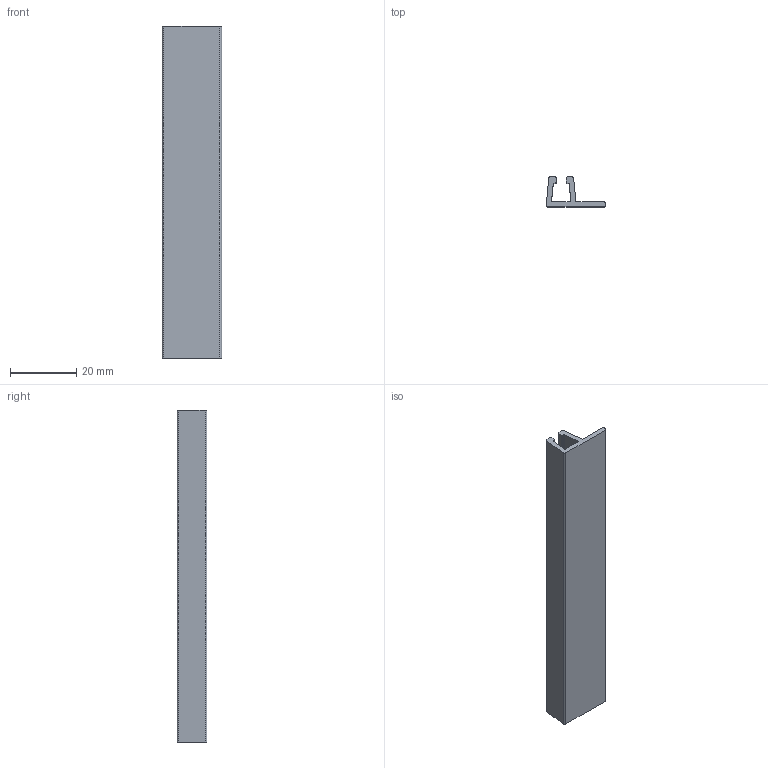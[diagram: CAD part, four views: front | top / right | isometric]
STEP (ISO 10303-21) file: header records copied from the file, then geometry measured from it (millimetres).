
FILE_DESCRIPTION(/* description */ ('BRACKET F-PROFILE FOR 300-3062'),/* implementation_level */ '2;1');
FILE_NAME(/* name */ '\\carryline.intra\privat\users\mathias\Desktop\Tillfälliga filer\300-3065.stp',/* time_stamp */ '2018-11-30T09:54:13+01:00',/* author */ ('MD'),/* organization */ ('CARRYLINE'),/* preprocessor_version */ 'ST-DEVELOPER v17',/* originating_system */ 'Autodesk Inventor 2018',/* authorisation */ '');
FILE_SCHEMA (('AUTOMOTIVE_DESIGN { 1 0 10303 214 3 1 1 }'));
Length unit declared in the file: millimetre
Products named in the file (1): 300-3065
Bounding box: 17.95 x 9 x 100 mm (x, y, z)
Volume: 5199.8 mm3; surface area: 7096.1 mm2
Topology: 1 solids, 1 shells, 27 faces, 75 edges, 50 vertices
Faces by surface type: plane 15, cylinder 12
Entity records: 912 total; most frequent: DIRECTION 155, CARTESIAN_POINT 153, ORIENTED_EDGE 150, EDGE_CURVE 75, AXIS2_PLACEMENT_3D 52, LINE 51, VECTOR 51, VERTEX_POINT 50
